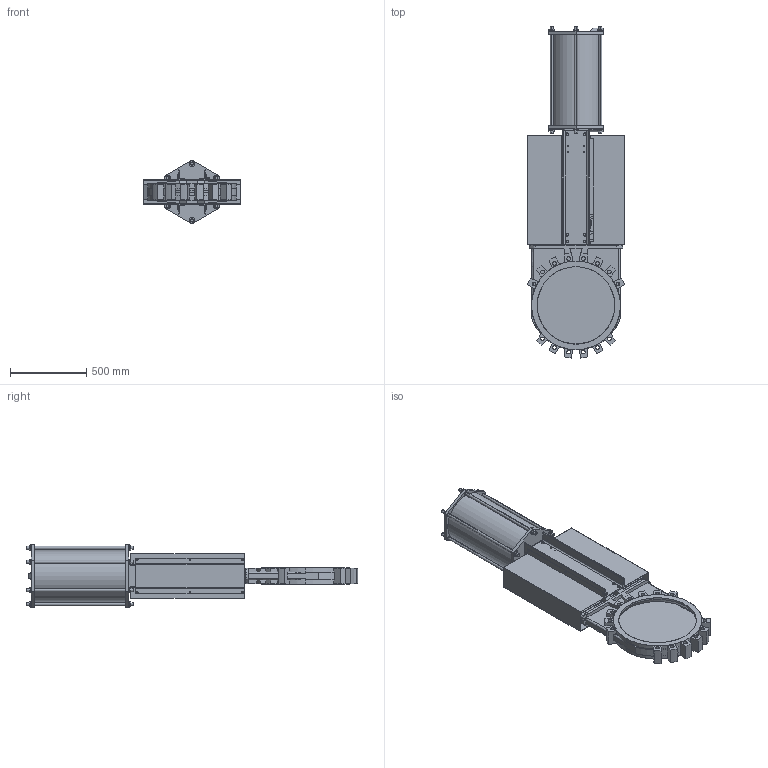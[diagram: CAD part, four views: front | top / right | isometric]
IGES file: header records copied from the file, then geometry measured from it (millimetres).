
Start section: SolidWorks IGES file using analytic representation for surfaces
Global section: file name: D:\part\3D Projects\VG-PNEUMATIC ACTUATOR(DN50-600)\VG P DN500\VG P DN500.IGS; native system: SolidWorks 2009; preprocessor: SolidWorks 2009; author: zhixin.zheng; date: 100129.141501; units: millimetre
Bounding box: 635.7 x 2176.04 x 415.69 mm (x, y, z)
Surface area: 6693625.4 mm2 (no closed solid volume)
Topology: 0 solids, 0 shells, 1559 faces, 17270 edges, 17270 vertices
Faces by surface type: bspline 980, revolution 579
